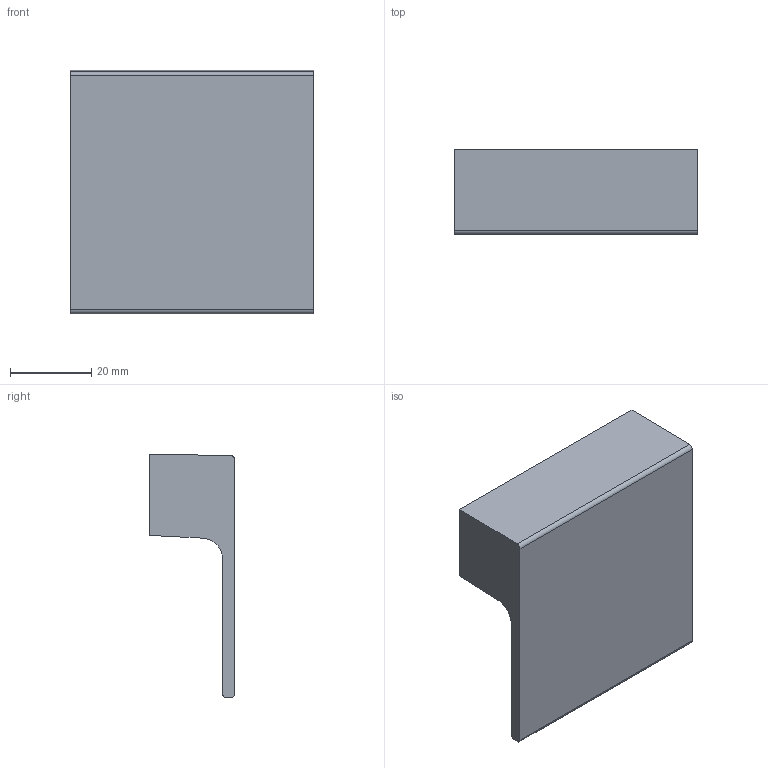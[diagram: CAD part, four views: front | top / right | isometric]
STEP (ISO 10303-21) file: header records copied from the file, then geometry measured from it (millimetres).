
FILE_DESCRIPTION( ( '' ), '1' );
FILE_NAME( 'C:/Documents and Settings/Nikhil/Desktop/Nik/Done/115155.stp', '2013-10-24T06:13:22', ( '' ), ( '' ), ' ', ' ', ' ' );
FILE_SCHEMA( ( 'automotive_design' ) );
Length unit declared in the file: millimetre
Products named in the file (1): 1
Bounding box: 60 x 21 x 60 mm (x, y, z)
Volume: 32723.9 mm3; surface area: 10751.6 mm2
Topology: 1 solids, 1 shells, 18 faces, 42 edges, 28 vertices
Faces by surface type: plane 10, cylinder 8
Entity records: 1040 total; most frequent: DIRECTION 96, STYLED_ITEM 89, PRESENTATION_STYLE_ASSIGNMENT 89, CARTESIAN_POINT 89, COLOUR_RGB 89, ORIENTED_EDGE 84, EDGE_CURVE 42, CURVE_STYLE 42
